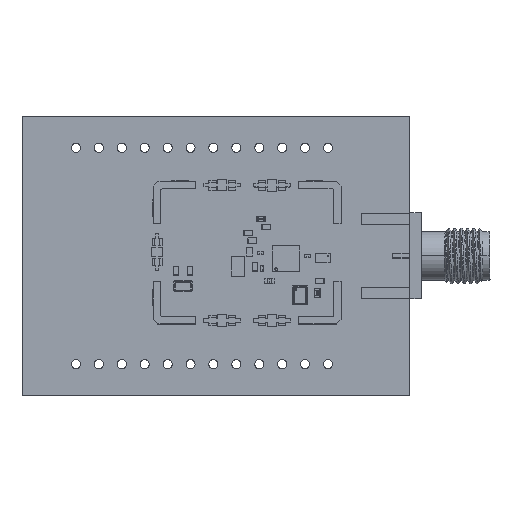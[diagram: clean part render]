
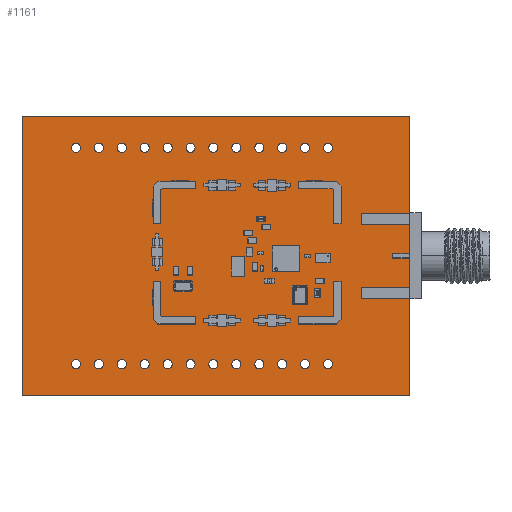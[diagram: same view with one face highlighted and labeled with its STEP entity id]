
A CAD part, top view. The second image highlights one B-rep face of the part: STEP entity #1161.
In plain terms, the highlighted planar face has unit normal (0, 0, 1).
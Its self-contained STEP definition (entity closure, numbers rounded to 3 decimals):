
#168 = VERTEX_POINT('',#169);
#169 = CARTESIAN_POINT('',(0.,0.,0.639));
#175 = EDGE_CURVE('',#168,#176,#178,.T.);
#176 = VERTEX_POINT('',#177);
#177 = CARTESIAN_POINT('',(0.,31.,0.639));
#178 = LINE('',#179,#180);
#179 = CARTESIAN_POINT('',(0.,0.,0.639));
#180 = VECTOR('',#181,1.);
#181 = DIRECTION('',(0.,1.,0.));
#206 = EDGE_CURVE('',#176,#207,#209,.T.);
#207 = VERTEX_POINT('',#208);
#208 = CARTESIAN_POINT('',(43.,31.,0.639));
#209 = LINE('',#210,#211);
#210 = CARTESIAN_POINT('',(0.,31.,0.639));
#211 = VECTOR('',#212,1.);
#212 = DIRECTION('',(1.,0.,0.));
#237 = EDGE_CURVE('',#207,#238,#240,.T.);
#238 = VERTEX_POINT('',#239);
#239 = CARTESIAN_POINT('',(43.,0.,0.639));
#240 = LINE('',#241,#242);
#241 = CARTESIAN_POINT('',(43.,31.,0.639));
#242 = VECTOR('',#243,1.);
#243 = DIRECTION('',(0.,-1.,0.));
#268 = EDGE_CURVE('',#238,#168,#269,.T.);
#269 = LINE('',#270,#271);
#270 = CARTESIAN_POINT('',(43.,0.,0.639));
#271 = VECTOR('',#272,1.);
#272 = DIRECTION('',(-1.,0.,0.));
#292 = VERTEX_POINT('',#293);
#293 = CARTESIAN_POINT('',(11.565,3.5,0.639));
#299 = EDGE_CURVE('',#292,#292,#300,.T.);
#300 = CIRCLE('',#301,0.5);
#301 = AXIS2_PLACEMENT_3D('',#302,#303,#304);
#302 = CARTESIAN_POINT('',(11.065,3.5,0.639));
#303 = DIRECTION('',(0.,0.,1.));
#304 = DIRECTION('',(1.,0.,-0.));
#325 = VERTEX_POINT('',#326);
#326 = CARTESIAN_POINT('',(6.485,3.5,0.639));
#332 = EDGE_CURVE('',#325,#325,#333,.T.);
#333 = CIRCLE('',#334,0.5);
#334 = AXIS2_PLACEMENT_3D('',#335,#336,#337);
#335 = CARTESIAN_POINT('',(5.985,3.5,0.639));
#336 = DIRECTION('',(0.,0.,1.));
#337 = DIRECTION('',(1.,0.,-0.));
#358 = VERTEX_POINT('',#359);
#359 = CARTESIAN_POINT('',(9.025,3.5,0.639));
#365 = EDGE_CURVE('',#358,#358,#366,.T.);
#366 = CIRCLE('',#367,0.5);
#367 = AXIS2_PLACEMENT_3D('',#368,#369,#370);
#368 = CARTESIAN_POINT('',(8.525,3.5,0.639));
#369 = DIRECTION('',(0.,0.,1.));
#370 = DIRECTION('',(1.,0.,-0.));
#391 = VERTEX_POINT('',#392);
#392 = CARTESIAN_POINT('',(19.185,3.5,0.639));
#398 = EDGE_CURVE('',#391,#391,#399,.T.);
#399 = CIRCLE('',#400,0.5);
#400 = AXIS2_PLACEMENT_3D('',#401,#402,#403);
#401 = CARTESIAN_POINT('',(18.685,3.5,0.639));
#402 = DIRECTION('',(0.,0.,1.));
#403 = DIRECTION('',(1.,0.,-0.));
#424 = VERTEX_POINT('',#425);
#425 = CARTESIAN_POINT('',(14.105,3.5,0.639));
#431 = EDGE_CURVE('',#424,#424,#432,.T.);
#432 = CIRCLE('',#433,0.5);
#433 = AXIS2_PLACEMENT_3D('',#434,#435,#436);
#434 = CARTESIAN_POINT('',(13.605,3.5,0.639));
#435 = DIRECTION('',(0.,0.,1.));
#436 = DIRECTION('',(1.,0.,-0.));
#457 = VERTEX_POINT('',#458);
#458 = CARTESIAN_POINT('',(16.645,3.5,0.639));
#464 = EDGE_CURVE('',#457,#457,#465,.T.);
#465 = CIRCLE('',#466,0.5);
#466 = AXIS2_PLACEMENT_3D('',#467,#468,#469);
#467 = CARTESIAN_POINT('',(16.145,3.5,0.639));
#468 = DIRECTION('',(0.,0.,1.));
#469 = DIRECTION('',(1.,0.,-0.));
#490 = VERTEX_POINT('',#491);
#491 = CARTESIAN_POINT('',(11.565,27.5,0.639));
#497 = EDGE_CURVE('',#490,#490,#498,.T.);
#498 = CIRCLE('',#499,0.5);
#499 = AXIS2_PLACEMENT_3D('',#500,#501,#502);
#500 = CARTESIAN_POINT('',(11.065,27.5,0.639));
#501 = DIRECTION('',(0.,0.,1.));
#502 = DIRECTION('',(1.,0.,-0.));
#523 = VERTEX_POINT('',#524);
#524 = CARTESIAN_POINT('',(6.485,27.5,0.639));
#530 = EDGE_CURVE('',#523,#523,#531,.T.);
#531 = CIRCLE('',#532,0.5);
#532 = AXIS2_PLACEMENT_3D('',#533,#534,#535);
#533 = CARTESIAN_POINT('',(5.985,27.5,0.639));
#534 = DIRECTION('',(0.,0.,1.));
#535 = DIRECTION('',(1.,0.,-0.));
#556 = VERTEX_POINT('',#557);
#557 = CARTESIAN_POINT('',(9.025,27.5,0.639));
#563 = EDGE_CURVE('',#556,#556,#564,.T.);
#564 = CIRCLE('',#565,0.5);
#565 = AXIS2_PLACEMENT_3D('',#566,#567,#568);
#566 = CARTESIAN_POINT('',(8.525,27.5,0.639));
#567 = DIRECTION('',(0.,0.,1.));
#568 = DIRECTION('',(1.,0.,-0.));
#589 = VERTEX_POINT('',#590);
#590 = CARTESIAN_POINT('',(19.185,27.5,0.639));
#596 = EDGE_CURVE('',#589,#589,#597,.T.);
#597 = CIRCLE('',#598,0.5);
#598 = AXIS2_PLACEMENT_3D('',#599,#600,#601);
#599 = CARTESIAN_POINT('',(18.685,27.5,0.639));
#600 = DIRECTION('',(0.,0.,1.));
#601 = DIRECTION('',(1.,0.,-0.));
#622 = VERTEX_POINT('',#623);
#623 = CARTESIAN_POINT('',(14.105,27.5,0.639));
#629 = EDGE_CURVE('',#622,#622,#630,.T.);
#630 = CIRCLE('',#631,0.5);
#631 = AXIS2_PLACEMENT_3D('',#632,#633,#634);
#632 = CARTESIAN_POINT('',(13.605,27.5,0.639));
#633 = DIRECTION('',(0.,0.,1.));
#634 = DIRECTION('',(1.,0.,-0.));
#655 = VERTEX_POINT('',#656);
#656 = CARTESIAN_POINT('',(16.645,27.5,0.639));
#662 = EDGE_CURVE('',#655,#655,#663,.T.);
#663 = CIRCLE('',#664,0.5);
#664 = AXIS2_PLACEMENT_3D('',#665,#666,#667);
#665 = CARTESIAN_POINT('',(16.145,27.5,0.639));
#666 = DIRECTION('',(0.,0.,1.));
#667 = DIRECTION('',(1.,0.,-0.));
#688 = VERTEX_POINT('',#689);
#689 = CARTESIAN_POINT('',(26.805,3.5,0.639));
#695 = EDGE_CURVE('',#688,#688,#696,.T.);
#696 = CIRCLE('',#697,0.5);
#697 = AXIS2_PLACEMENT_3D('',#698,#699,#700);
#698 = CARTESIAN_POINT('',(26.305,3.5,0.639));
#699 = DIRECTION('',(0.,0.,1.));
#700 = DIRECTION('',(1.,0.,-0.));
#721 = VERTEX_POINT('',#722);
#722 = CARTESIAN_POINT('',(21.725,3.5,0.639));
#728 = EDGE_CURVE('',#721,#721,#729,.T.);
#729 = CIRCLE('',#730,0.5);
#730 = AXIS2_PLACEMENT_3D('',#731,#732,#733);
#731 = CARTESIAN_POINT('',(21.225,3.5,0.639));
#732 = DIRECTION('',(0.,0.,1.));
#733 = DIRECTION('',(1.,0.,-0.));
#754 = VERTEX_POINT('',#755);
#755 = CARTESIAN_POINT('',(24.265,3.5,0.639));
#761 = EDGE_CURVE('',#754,#754,#762,.T.);
#762 = CIRCLE('',#763,0.5);
#763 = AXIS2_PLACEMENT_3D('',#764,#765,#766);
#764 = CARTESIAN_POINT('',(23.765,3.5,0.639));
#765 = DIRECTION('',(0.,0.,1.));
#766 = DIRECTION('',(1.,0.,-0.));
#787 = VERTEX_POINT('',#788);
#788 = CARTESIAN_POINT('',(34.425,3.5,0.639));
#794 = EDGE_CURVE('',#787,#787,#795,.T.);
#795 = CIRCLE('',#796,0.5);
#796 = AXIS2_PLACEMENT_3D('',#797,#798,#799);
#797 = CARTESIAN_POINT('',(33.925,3.5,0.639));
#798 = DIRECTION('',(0.,0.,1.));
#799 = DIRECTION('',(1.,0.,-0.));
#820 = VERTEX_POINT('',#821);
#821 = CARTESIAN_POINT('',(29.345,3.5,0.639));
#827 = EDGE_CURVE('',#820,#820,#828,.T.);
#828 = CIRCLE('',#829,0.5);
#829 = AXIS2_PLACEMENT_3D('',#830,#831,#832);
#830 = CARTESIAN_POINT('',(28.845,3.5,0.639));
#831 = DIRECTION('',(0.,0.,1.));
#832 = DIRECTION('',(1.,0.,-0.));
#853 = VERTEX_POINT('',#854);
#854 = CARTESIAN_POINT('',(31.885,3.5,0.639));
#860 = EDGE_CURVE('',#853,#853,#861,.T.);
#861 = CIRCLE('',#862,0.5);
#862 = AXIS2_PLACEMENT_3D('',#863,#864,#865);
#863 = CARTESIAN_POINT('',(31.385,3.5,0.639));
#864 = DIRECTION('',(0.,0.,1.));
#865 = DIRECTION('',(1.,0.,-0.));
#886 = VERTEX_POINT('',#887);
#887 = CARTESIAN_POINT('',(26.805,27.5,0.639));
#893 = EDGE_CURVE('',#886,#886,#894,.T.);
#894 = CIRCLE('',#895,0.5);
#895 = AXIS2_PLACEMENT_3D('',#896,#897,#898);
#896 = CARTESIAN_POINT('',(26.305,27.5,0.639));
#897 = DIRECTION('',(0.,0.,1.));
#898 = DIRECTION('',(1.,0.,-0.));
#919 = VERTEX_POINT('',#920);
#920 = CARTESIAN_POINT('',(21.725,27.5,0.639));
#926 = EDGE_CURVE('',#919,#919,#927,.T.);
#927 = CIRCLE('',#928,0.5);
#928 = AXIS2_PLACEMENT_3D('',#929,#930,#931);
#929 = CARTESIAN_POINT('',(21.225,27.5,0.639));
#930 = DIRECTION('',(0.,0.,1.));
#931 = DIRECTION('',(1.,0.,-0.));
#952 = VERTEX_POINT('',#953);
#953 = CARTESIAN_POINT('',(24.265,27.5,0.639));
#959 = EDGE_CURVE('',#952,#952,#960,.T.);
#960 = CIRCLE('',#961,0.5);
#961 = AXIS2_PLACEMENT_3D('',#962,#963,#964);
#962 = CARTESIAN_POINT('',(23.765,27.5,0.639));
#963 = DIRECTION('',(0.,0.,1.));
#964 = DIRECTION('',(1.,0.,-0.));
#985 = VERTEX_POINT('',#986);
#986 = CARTESIAN_POINT('',(34.425,27.5,0.639));
#992 = EDGE_CURVE('',#985,#985,#993,.T.);
#993 = CIRCLE('',#994,0.5);
#994 = AXIS2_PLACEMENT_3D('',#995,#996,#997);
#995 = CARTESIAN_POINT('',(33.925,27.5,0.639));
#996 = DIRECTION('',(0.,0.,1.));
#997 = DIRECTION('',(1.,0.,-0.));
#1018 = VERTEX_POINT('',#1019);
#1019 = CARTESIAN_POINT('',(29.345,27.5,0.639));
#1025 = EDGE_CURVE('',#1018,#1018,#1026,.T.);
#1026 = CIRCLE('',#1027,0.5);
#1027 = AXIS2_PLACEMENT_3D('',#1028,#1029,#1030);
#1028 = CARTESIAN_POINT('',(28.845,27.5,0.639));
#1029 = DIRECTION('',(0.,0.,1.));
#1030 = DIRECTION('',(1.,0.,-0.));
#1051 = VERTEX_POINT('',#1052);
#1052 = CARTESIAN_POINT('',(31.885,27.5,0.639));
#1058 = EDGE_CURVE('',#1051,#1051,#1059,.T.);
#1059 = CIRCLE('',#1060,0.5);
#1060 = AXIS2_PLACEMENT_3D('',#1061,#1062,#1063);
#1061 = CARTESIAN_POINT('',(31.385,27.5,0.639));
#1062 = DIRECTION('',(0.,0.,1.));
#1063 = DIRECTION('',(1.,0.,-0.));
#1161 = ADVANCED_FACE('',(#1162,#1168,#1171,#1174,#1177,#1180,#1183,
    #1186,#1189,#1192,#1195,#1198,#1201,#1204,#1207,#1210,#1213,#1216,
    #1219,#1222,#1225,#1228,#1231,#1234,#1237),#1240,.F.);
#1162 = FACE_BOUND('',#1163,.F.);
#1163 = EDGE_LOOP('',(#1164,#1165,#1166,#1167));
#1164 = ORIENTED_EDGE('',*,*,#175,.T.);
#1165 = ORIENTED_EDGE('',*,*,#206,.T.);
#1166 = ORIENTED_EDGE('',*,*,#237,.T.);
#1167 = ORIENTED_EDGE('',*,*,#268,.T.);
#1168 = FACE_BOUND('',#1169,.F.);
#1169 = EDGE_LOOP('',(#1170));
#1170 = ORIENTED_EDGE('',*,*,#299,.T.);
#1171 = FACE_BOUND('',#1172,.F.);
#1172 = EDGE_LOOP('',(#1173));
#1173 = ORIENTED_EDGE('',*,*,#332,.T.);
#1174 = FACE_BOUND('',#1175,.F.);
#1175 = EDGE_LOOP('',(#1176));
#1176 = ORIENTED_EDGE('',*,*,#365,.T.);
#1177 = FACE_BOUND('',#1178,.F.);
#1178 = EDGE_LOOP('',(#1179));
#1179 = ORIENTED_EDGE('',*,*,#398,.T.);
#1180 = FACE_BOUND('',#1181,.F.);
#1181 = EDGE_LOOP('',(#1182));
#1182 = ORIENTED_EDGE('',*,*,#431,.T.);
#1183 = FACE_BOUND('',#1184,.F.);
#1184 = EDGE_LOOP('',(#1185));
#1185 = ORIENTED_EDGE('',*,*,#464,.T.);
#1186 = FACE_BOUND('',#1187,.F.);
#1187 = EDGE_LOOP('',(#1188));
#1188 = ORIENTED_EDGE('',*,*,#497,.T.);
#1189 = FACE_BOUND('',#1190,.F.);
#1190 = EDGE_LOOP('',(#1191));
#1191 = ORIENTED_EDGE('',*,*,#530,.T.);
#1192 = FACE_BOUND('',#1193,.F.);
#1193 = EDGE_LOOP('',(#1194));
#1194 = ORIENTED_EDGE('',*,*,#563,.T.);
#1195 = FACE_BOUND('',#1196,.F.);
#1196 = EDGE_LOOP('',(#1197));
#1197 = ORIENTED_EDGE('',*,*,#596,.T.);
#1198 = FACE_BOUND('',#1199,.F.);
#1199 = EDGE_LOOP('',(#1200));
#1200 = ORIENTED_EDGE('',*,*,#629,.T.);
#1201 = FACE_BOUND('',#1202,.F.);
#1202 = EDGE_LOOP('',(#1203));
#1203 = ORIENTED_EDGE('',*,*,#662,.T.);
#1204 = FACE_BOUND('',#1205,.F.);
#1205 = EDGE_LOOP('',(#1206));
#1206 = ORIENTED_EDGE('',*,*,#695,.T.);
#1207 = FACE_BOUND('',#1208,.F.);
#1208 = EDGE_LOOP('',(#1209));
#1209 = ORIENTED_EDGE('',*,*,#728,.T.);
#1210 = FACE_BOUND('',#1211,.F.);
#1211 = EDGE_LOOP('',(#1212));
#1212 = ORIENTED_EDGE('',*,*,#761,.T.);
#1213 = FACE_BOUND('',#1214,.F.);
#1214 = EDGE_LOOP('',(#1215));
#1215 = ORIENTED_EDGE('',*,*,#794,.T.);
#1216 = FACE_BOUND('',#1217,.F.);
#1217 = EDGE_LOOP('',(#1218));
#1218 = ORIENTED_EDGE('',*,*,#827,.T.);
#1219 = FACE_BOUND('',#1220,.F.);
#1220 = EDGE_LOOP('',(#1221));
#1221 = ORIENTED_EDGE('',*,*,#860,.T.);
#1222 = FACE_BOUND('',#1223,.F.);
#1223 = EDGE_LOOP('',(#1224));
#1224 = ORIENTED_EDGE('',*,*,#893,.T.);
#1225 = FACE_BOUND('',#1226,.F.);
#1226 = EDGE_LOOP('',(#1227));
#1227 = ORIENTED_EDGE('',*,*,#926,.T.);
#1228 = FACE_BOUND('',#1229,.F.);
#1229 = EDGE_LOOP('',(#1230));
#1230 = ORIENTED_EDGE('',*,*,#959,.T.);
#1231 = FACE_BOUND('',#1232,.F.);
#1232 = EDGE_LOOP('',(#1233));
#1233 = ORIENTED_EDGE('',*,*,#992,.T.);
#1234 = FACE_BOUND('',#1235,.F.);
#1235 = EDGE_LOOP('',(#1236));
#1236 = ORIENTED_EDGE('',*,*,#1025,.T.);
#1237 = FACE_BOUND('',#1238,.F.);
#1238 = EDGE_LOOP('',(#1239));
#1239 = ORIENTED_EDGE('',*,*,#1058,.T.);
#1240 = PLANE('',#1241);
#1241 = AXIS2_PLACEMENT_3D('',#1242,#1243,#1244);
#1242 = CARTESIAN_POINT('',(21.5,15.5,0.639));
#1243 = DIRECTION('',(-0.,-0.,-1.));
#1244 = DIRECTION('',(-1.,0.,0.));
